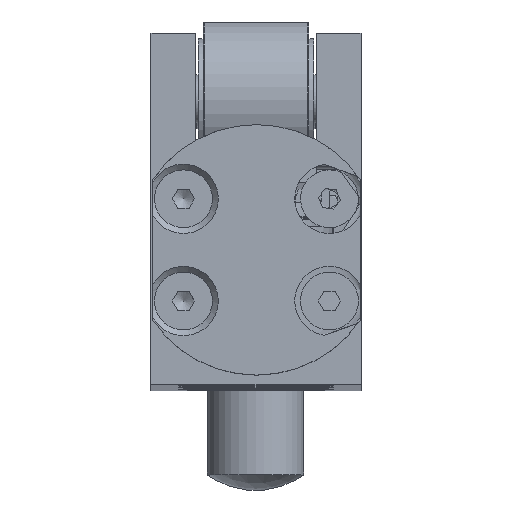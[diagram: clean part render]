
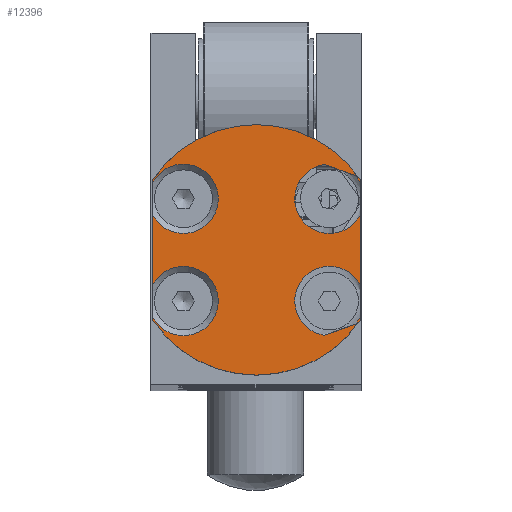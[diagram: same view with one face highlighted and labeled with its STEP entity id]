
A CAD part, top view. The second image highlights one B-rep face of the part: STEP entity #12396.
In plain terms, the highlighted planar face has unit normal (0, 0, 1).
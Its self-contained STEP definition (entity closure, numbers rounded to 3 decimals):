
#683=LINE('',#21642,#1195);
#684=LINE('',#21645,#1196);
#685=LINE('',#21649,#1197);
#686=LINE('',#21653,#1198);
#687=LINE('',#21657,#1199);
#688=LINE('',#21661,#1200);
#689=LINE('',#21665,#1201);
#690=LINE('',#21668,#1202);
#1195=VECTOR('',#16743,10.);
#1196=VECTOR('',#16746,10.);
#1197=VECTOR('',#16749,10.);
#1198=VECTOR('',#16752,10.);
#1199=VECTOR('',#16755,10.);
#1200=VECTOR('',#16758,10.);
#1201=VECTOR('',#16761,10.);
#1202=VECTOR('',#16764,10.);
#2186=FACE_OUTER_BOUND('',#2938,.T.);
#2938=EDGE_LOOP('',(#9479,#9480,#9481,#9482,#9483,#9484,#9485,#9486,#9487,
#9488,#9489,#9490,#9491,#9492,#9493,#9494));
#3895=CIRCLE('',#13680,3.6);
#3898=CIRCLE('',#13683,3.6);
#3899=CIRCLE('',#13687,3.6);
#3900=CIRCLE('',#13688,3.6);
#3901=CIRCLE('',#13689,13.);
#3902=CIRCLE('',#13690,3.6);
#3903=CIRCLE('',#13691,3.6);
#3904=CIRCLE('',#13692,13.);
#5177=VERTEX_POINT('',#21618);
#5178=VERTEX_POINT('',#21619);
#5179=VERTEX_POINT('',#21623);
#5183=VERTEX_POINT('',#21634);
#5184=VERTEX_POINT('',#21644);
#5185=VERTEX_POINT('',#21646);
#5186=VERTEX_POINT('',#21648);
#5187=VERTEX_POINT('',#21650);
#5188=VERTEX_POINT('',#21652);
#5189=VERTEX_POINT('',#21654);
#5190=VERTEX_POINT('',#21656);
#5191=VERTEX_POINT('',#21658);
#5192=VERTEX_POINT('',#21660);
#5193=VERTEX_POINT('',#21662);
#5194=VERTEX_POINT('',#21664);
#5195=VERTEX_POINT('',#21666);
#6748=EDGE_CURVE('',#5179,#5177,#3895,.T.);
#6754=EDGE_CURVE('',#5178,#5183,#3898,.T.);
#6756=EDGE_CURVE('',#5183,#5179,#683,.T.);
#6757=EDGE_CURVE('',#5177,#5184,#684,.T.);
#6758=EDGE_CURVE('',#5184,#5185,#3899,.T.);
#6759=EDGE_CURVE('',#5185,#5186,#685,.T.);
#6760=EDGE_CURVE('',#5186,#5187,#3900,.T.);
#6761=EDGE_CURVE('',#5187,#5188,#686,.T.);
#6762=EDGE_CURVE('',#5189,#5188,#3901,.T.);
#6763=EDGE_CURVE('',#5189,#5190,#687,.T.);
#6764=EDGE_CURVE('',#5190,#5191,#3902,.T.);
#6765=EDGE_CURVE('',#5191,#5192,#688,.T.);
#6766=EDGE_CURVE('',#5192,#5193,#3903,.T.);
#6767=EDGE_CURVE('',#5193,#5194,#689,.T.);
#6768=EDGE_CURVE('',#5195,#5194,#3904,.T.);
#6769=EDGE_CURVE('',#5195,#5178,#690,.T.);
#9479=ORIENTED_EDGE('',*,*,#6754,.T.);
#9480=ORIENTED_EDGE('',*,*,#6756,.T.);
#9481=ORIENTED_EDGE('',*,*,#6748,.T.);
#9482=ORIENTED_EDGE('',*,*,#6757,.T.);
#9483=ORIENTED_EDGE('',*,*,#6758,.T.);
#9484=ORIENTED_EDGE('',*,*,#6759,.T.);
#9485=ORIENTED_EDGE('',*,*,#6760,.T.);
#9486=ORIENTED_EDGE('',*,*,#6761,.T.);
#9487=ORIENTED_EDGE('',*,*,#6762,.F.);
#9488=ORIENTED_EDGE('',*,*,#6763,.T.);
#9489=ORIENTED_EDGE('',*,*,#6764,.T.);
#9490=ORIENTED_EDGE('',*,*,#6765,.T.);
#9491=ORIENTED_EDGE('',*,*,#6766,.T.);
#9492=ORIENTED_EDGE('',*,*,#6767,.T.);
#9493=ORIENTED_EDGE('',*,*,#6768,.F.);
#9494=ORIENTED_EDGE('',*,*,#6769,.T.);
#11373=PLANE('',#13686);
#12396=ADVANCED_FACE('',(#2186),#11373,.T.);
#13680=AXIS2_PLACEMENT_3D('',#21624,#16729,#16730);
#13683=AXIS2_PLACEMENT_3D('',#21638,#16736,#16737);
#13686=AXIS2_PLACEMENT_3D('',#21643,#16744,#16745);
#13687=AXIS2_PLACEMENT_3D('',#21647,#16747,#16748);
#13688=AXIS2_PLACEMENT_3D('',#21651,#16750,#16751);
#13689=AXIS2_PLACEMENT_3D('',#21655,#16753,#16754);
#13690=AXIS2_PLACEMENT_3D('',#21659,#16756,#16757);
#13691=AXIS2_PLACEMENT_3D('',#21663,#16759,#16760);
#13692=AXIS2_PLACEMENT_3D('',#21667,#16762,#16763);
#16729=DIRECTION('center_axis',(0.,0.,
-1.));
#16730=DIRECTION('ref_axis',(-0.342,0.94,0.));
#16736=DIRECTION('center_axis',(0.,0.,
-1.));
#16737=DIRECTION('ref_axis',(-0.342,0.94,0.));
#16743=DIRECTION('',(-0.94,-0.342,0.));
#16744=DIRECTION('center_axis',(0.,0.,
1.));
#16745=DIRECTION('ref_axis',(1.,0.,0.));
#16746=DIRECTION('',(0.,1.,0.));
#16747=DIRECTION('center_axis',(0.,0.,
-1.));
#16748=DIRECTION('ref_axis',(-0.342,-0.94,0.));
#16749=DIRECTION('',(0.94,-0.342,0.));
#16750=DIRECTION('center_axis',(0.,0.,
-1.));
#16751=DIRECTION('ref_axis',(-0.342,-0.94,0.));
#16752=DIRECTION('',(0.,1.,0.));
#16753=DIRECTION('center_axis',(0.,0.,
-1.));
#16754=DIRECTION('ref_axis',(0.,1.,0.));
#16755=DIRECTION('',(0.,-1.,0.));
#16756=DIRECTION('center_axis',(0.,0.,
-1.));
#16757=DIRECTION('ref_axis',(1.,0.,0.));
#16758=DIRECTION('',(0.,-1.,0.));
#16759=DIRECTION('center_axis',(0.,0.,
-1.));
#16760=DIRECTION('ref_axis',(1.,0.,0.));
#16761=DIRECTION('',(0.,-1.,0.));
#16762=DIRECTION('center_axis',(0.,0.,
-1.));
#16763=DIRECTION('ref_axis',(0.,1.,0.));
#16764=DIRECTION('',(0.,1.,0.));
#21618=CARTESIAN_POINT('',(10.8,-7.855,186.));
#21619=CARTESIAN_POINT('',(10.8,-11.256,186.));
#21623=CARTESIAN_POINT('',(7.114,-13.119,186.));
#21624=CARTESIAN_POINT('Origin',(7.627,-9.556,186.));
#21634=CARTESIAN_POINT('',(10.311,-11.955,186.));
#21638=CARTESIAN_POINT('Origin',(7.627,-9.556,186.));
#21642=CARTESIAN_POINT('',(8.206,-12.721,186.));
#21643=CARTESIAN_POINT('Origin',(0.05,2.25,186.));
#21644=CARTESIAN_POINT('',(10.8,-0.645,186.));
#21645=CARTESIAN_POINT('',(10.8,-4.655,186.));
#21646=CARTESIAN_POINT('',(7.114,4.619,186.));
#21647=CARTESIAN_POINT('Origin',(7.627,1.056,186.));
#21648=CARTESIAN_POINT('',(10.311,3.455,186.));
#21649=CARTESIAN_POINT('',(6.117,4.982,186.));
#21650=CARTESIAN_POINT('',(10.8,2.756,186.));
#21651=CARTESIAN_POINT('Origin',(7.627,1.056,186.));
#21652=CARTESIAN_POINT('',(10.8,3.06,186.));
#21653=CARTESIAN_POINT('',(10.8,-4.655,186.));
#21654=CARTESIAN_POINT('',(-10.7,3.06,186.));
#21655=CARTESIAN_POINT('Origin',(0.05,-4.25,186.));
#21656=CARTESIAN_POINT('',(-10.7,2.756,186.));
#21657=CARTESIAN_POINT('',(-10.7,2.655,186.));
#21658=CARTESIAN_POINT('',(-10.7,-0.645,186.));
#21659=CARTESIAN_POINT('Origin',(-7.527,1.056,186.));
#21660=CARTESIAN_POINT('',(-10.7,-7.855,186.));
#21661=CARTESIAN_POINT('',(-10.7,2.655,186.));
#21662=CARTESIAN_POINT('',(-10.7,-11.256,186.));
#21663=CARTESIAN_POINT('Origin',(-7.527,-9.556,186.));
#21664=CARTESIAN_POINT('',(-10.7,-11.56,186.));
#21665=CARTESIAN_POINT('',(-10.7,2.655,186.));
#21666=CARTESIAN_POINT('',(10.8,-11.56,186.));
#21667=CARTESIAN_POINT('Origin',(0.05,-4.25,186.));
#21668=CARTESIAN_POINT('',(10.8,-4.655,186.));
